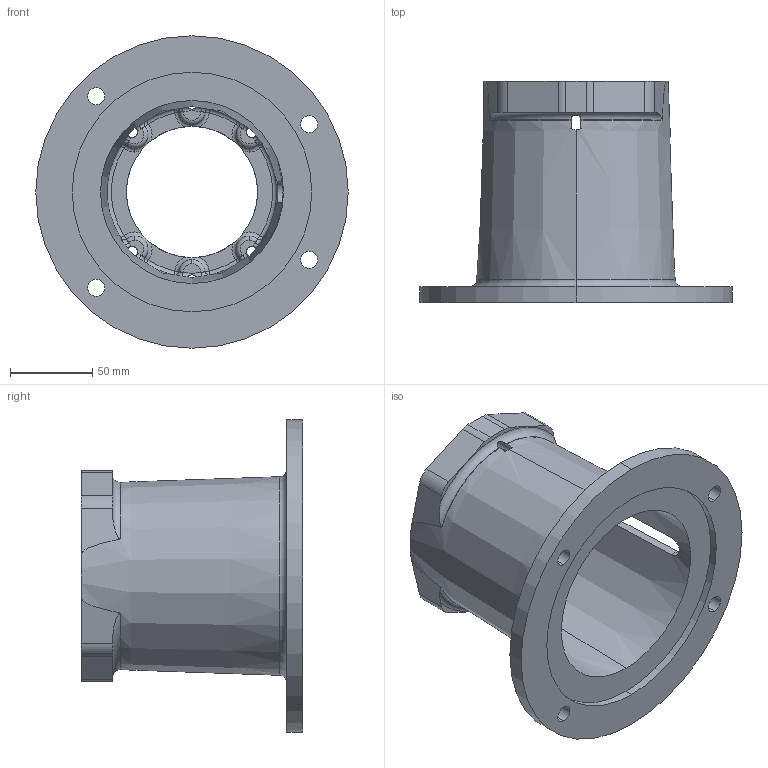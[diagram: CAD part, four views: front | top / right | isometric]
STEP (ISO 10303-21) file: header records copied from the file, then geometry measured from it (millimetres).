
FILE_DESCRIPTION (( 'STEP AP203' ), '1' );
FILE_NAME ('E5755080M.STEP', '2014-11-03T15:38:09', ( '' ), ( '' ), 'SwSTEP 2.0', 'SolidWorks 2014', '' );
FILE_SCHEMA (( 'CONFIG_CONTROL_DESIGN' ));
Length unit declared in the file: inch
Products named in the file (1): E5755080M
Bounding box: 190.5 x 134.87 x 190.5 mm (x, y, z)
Volume: 438231.6 mm3; surface area: 145116.1 mm2
Topology: 1 solids, 1 shells, 187 faces, 515 edges, 306 vertices
Faces by surface type: torus 53, cylinder 36, plane 30, sphere 24, bspline 24, cone 20
Entity records: 7979 total; most frequent: CARTESIAN_POINT 3295, ORIENTED_EDGE 998, DIRECTION 998, EDGE_CURVE 499, AXIS2_PLACEMENT_3D 461, VERTEX_POINT 306, CIRCLE 297, EDGE_LOOP 207
